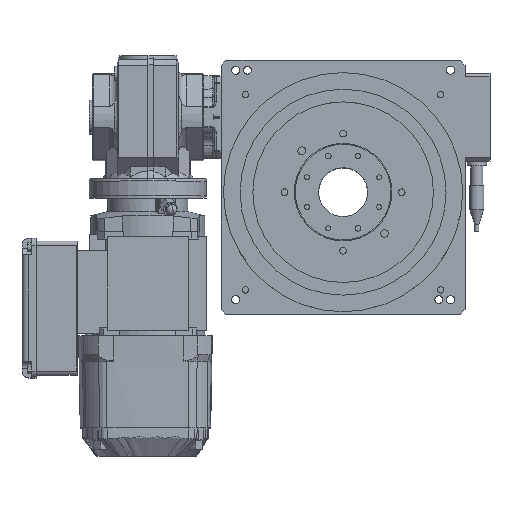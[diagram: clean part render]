
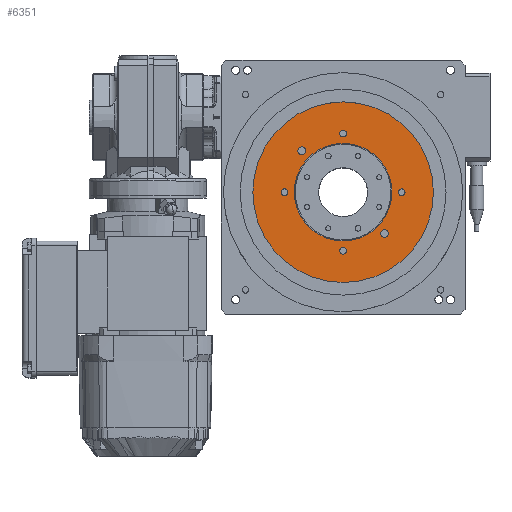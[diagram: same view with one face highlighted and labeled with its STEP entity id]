
A CAD part, top view. The second image highlights one B-rep face of the part: STEP entity #6351.
In plain terms, the highlighted planar face has unit normal (0, 0, 1).
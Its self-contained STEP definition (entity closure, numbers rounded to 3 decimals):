
#6351=ADVANCED_FACE('',(#13473,#13474,#13475,#13476,#13477,#13478,#13479,#13480),#13481,.T.);
#13473=FACE_BOUND('',#25525,.T.);
#13474=FACE_BOUND('',#25526,.T.);
#13475=FACE_BOUND('',#25527,.T.);
#13476=FACE_BOUND('',#25528,.T.);
#13477=FACE_BOUND('',#25529,.T.);
#13478=FACE_BOUND('',#25530,.T.);
#13479=FACE_OUTER_BOUND('',#25531,.T.);
#13480=FACE_BOUND('',#25532,.T.);
#13481=PLANE('',#25533);
#25525=EDGE_LOOP('',(#47269,#47270));
#25526=EDGE_LOOP('',(#47271,#47272));
#25527=EDGE_LOOP('',(#47273,#47274));
#25528=EDGE_LOOP('',(#47275,#47276));
#25529=EDGE_LOOP('',(#47277,#47278));
#25530=EDGE_LOOP('',(#47279,#47280));
#25531=EDGE_LOOP('',(#47281,#47282));
#25532=EDGE_LOOP('',(#47283,#47284));
#25533=AXIS2_PLACEMENT_3D('',#47285,#47286,#47287);
#47269=ORIENTED_EDGE('',*,*,#54572,.T.);
#47270=ORIENTED_EDGE('',*,*,#59529,.T.);
#47271=ORIENTED_EDGE('',*,*,#54577,.T.);
#47272=ORIENTED_EDGE('',*,*,#59530,.T.);
#47273=ORIENTED_EDGE('',*,*,#54582,.T.);
#47274=ORIENTED_EDGE('',*,*,#59531,.T.);
#47275=ORIENTED_EDGE('',*,*,#54587,.T.);
#47276=ORIENTED_EDGE('',*,*,#59532,.T.);
#47277=ORIENTED_EDGE('',*,*,#54592,.T.);
#47278=ORIENTED_EDGE('',*,*,#59533,.T.);
#47279=ORIENTED_EDGE('',*,*,#54597,.T.);
#47280=ORIENTED_EDGE('',*,*,#59534,.T.);
#47281=ORIENTED_EDGE('',*,*,#59527,.T.);
#47282=ORIENTED_EDGE('',*,*,#54606,.T.);
#47283=ORIENTED_EDGE('',*,*,#54763,.T.);
#47284=ORIENTED_EDGE('',*,*,#54756,.T.);
#47285=CARTESIAN_POINT('',(0.0,0.0,0.0));
#47286=DIRECTION('',(0.0,0.0,1.0));
#47287=DIRECTION('',(-1.0,0.0,0.0));
#54572=EDGE_CURVE('',#64964,#64968,#64970,.T.);
#54577=EDGE_CURVE('',#64973,#64977,#64979,.T.);
#54582=EDGE_CURVE('',#64982,#64986,#64988,.T.);
#54587=EDGE_CURVE('',#64991,#64995,#64997,.T.);
#54592=EDGE_CURVE('',#65000,#65004,#65006,.T.);
#54597=EDGE_CURVE('',#65009,#65013,#65015,.T.);
#54606=EDGE_CURVE('',#65031,#65028,#65032,.T.);
#54756=EDGE_CURVE('',#65301,#65298,#65302,.T.);
#54763=EDGE_CURVE('',#65298,#65301,#65310,.T.);
#59527=EDGE_CURVE('',#65028,#65031,#72353,.T.);
#59529=EDGE_CURVE('',#64968,#64964,#72355,.T.);
#59530=EDGE_CURVE('',#64977,#64973,#72356,.T.);
#59531=EDGE_CURVE('',#64986,#64982,#72357,.T.);
#59532=EDGE_CURVE('',#64995,#64991,#72358,.T.);
#59533=EDGE_CURVE('',#65004,#65000,#72359,.T.);
#59534=EDGE_CURVE('',#65013,#65009,#72360,.T.);
#64964=VERTEX_POINT('',#81385);
#64968=VERTEX_POINT('',#81390);
#64970=CIRCLE('',#81393,4.0);
#64973=VERTEX_POINT('',#81396);
#64977=VERTEX_POINT('',#81401);
#64979=CIRCLE('',#81404,4.0);
#64982=VERTEX_POINT('',#81407);
#64986=VERTEX_POINT('',#81412);
#64988=CIRCLE('',#81415,3.456);
#64991=VERTEX_POINT('',#81418);
#64995=VERTEX_POINT('',#81423);
#64997=CIRCLE('',#81426,3.456);
#65000=VERTEX_POINT('',#81429);
#65004=VERTEX_POINT('',#81434);
#65006=CIRCLE('',#81437,3.456);
#65009=VERTEX_POINT('',#81440);
#65013=VERTEX_POINT('',#81445);
#65015=CIRCLE('',#81448,3.456);
#65028=VERTEX_POINT('',#81463);
#65031=VERTEX_POINT('',#81467);
#65032=CIRCLE('',#81468,92.5);
#65298=VERTEX_POINT('',#81793);
#65301=VERTEX_POINT('',#81797);
#65302=CIRCLE('',#81798,50.0);
#65310=CIRCLE('',#81807,50.0);
#72353=CIRCLE('',#95324,92.5);
#72355=CIRCLE('',#95326,4.0);
#72356=CIRCLE('',#95327,4.0);
#72357=CIRCLE('',#95328,3.456);
#72358=CIRCLE('',#95329,3.456);
#72359=CIRCLE('',#95330,3.456);
#72360=CIRCLE('',#95331,3.456);
#81385=CARTESIAN_POINT('',(-38.426,42.426,0.0));
#81390=CARTESIAN_POINT('',(-46.426,42.426,0.0));
#81393=AXIS2_PLACEMENT_3D('',#103502,#103503,#103504);
#81396=CARTESIAN_POINT('',(46.426,-42.426,0.0));
#81401=CARTESIAN_POINT('',(38.426,-42.426,0.0));
#81404=AXIS2_PLACEMENT_3D('',#103510,#103511,#103512);
#81407=CARTESIAN_POINT('',(3.456,-60.0,0.0));
#81412=CARTESIAN_POINT('',(-3.456,-60.0,0.0));
#81415=AXIS2_PLACEMENT_3D('',#103518,#103519,#103520);
#81418=CARTESIAN_POINT('',(-56.544,0.0,0.0));
#81423=CARTESIAN_POINT('',(-63.456,0.,0.0));
#81426=AXIS2_PLACEMENT_3D('',#103526,#103527,#103528);
#81429=CARTESIAN_POINT('',(3.456,60.0,0.0));
#81434=CARTESIAN_POINT('',(-3.456,60.0,0.0));
#81437=AXIS2_PLACEMENT_3D('',#103534,#103535,#103536);
#81440=CARTESIAN_POINT('',(63.456,0.0,0.0));
#81445=CARTESIAN_POINT('',(56.544,0.,0.0));
#81448=AXIS2_PLACEMENT_3D('',#103542,#103543,#103544);
#81463=CARTESIAN_POINT('',(92.5,0.0,0.0));
#81467=CARTESIAN_POINT('',(-92.5,0.,0.0));
#81468=AXIS2_PLACEMENT_3D('',#103557,#103558,#103559);
#81793=CARTESIAN_POINT('',(50.0,0.0,0.0));
#81797=CARTESIAN_POINT('',(-50.0,0.,0.0));
#81798=AXIS2_PLACEMENT_3D('',#103797,#103798,#103799);
#81807=AXIS2_PLACEMENT_3D('',#103810,#103811,#103812);
#95324=AXIS2_PLACEMENT_3D('',#106729,#106730,#106731);
#95326=AXIS2_PLACEMENT_3D('',#106732,#106733,#106734);
#95327=AXIS2_PLACEMENT_3D('',#106735,#106736,#106737);
#95328=AXIS2_PLACEMENT_3D('',#106738,#106739,#106740);
#95329=AXIS2_PLACEMENT_3D('',#106741,#106742,#106743);
#95330=AXIS2_PLACEMENT_3D('',#106744,#106745,#106746);
#95331=AXIS2_PLACEMENT_3D('',#106747,#106748,#106749);
#103502=CARTESIAN_POINT('',(-42.426,42.426,0.0));
#103503=DIRECTION('',(0.0,0.0,-1.0));
#103504=DIRECTION('',(1.0,0.0,0.0));
#103510=CARTESIAN_POINT('',(42.426,-42.426,0.0));
#103511=DIRECTION('',(0.0,0.0,-1.0));
#103512=DIRECTION('',(1.0,0.0,0.0));
#103518=CARTESIAN_POINT('',(0.0,-60.0,0.0));
#103519=DIRECTION('',(0.0,0.0,-1.0));
#103520=DIRECTION('',(1.0,0.0,0.0));
#103526=CARTESIAN_POINT('',(-60.0,0.0,0.0));
#103527=DIRECTION('',(0.0,0.0,-1.0));
#103528=DIRECTION('',(1.0,0.0,0.0));
#103534=CARTESIAN_POINT('',(0.0,60.0,0.0));
#103535=DIRECTION('',(0.0,0.0,-1.0));
#103536=DIRECTION('',(1.0,0.0,0.0));
#103542=CARTESIAN_POINT('',(60.0,0.0,0.0));
#103543=DIRECTION('',(0.0,0.0,-1.0));
#103544=DIRECTION('',(1.0,0.0,0.0));
#103557=CARTESIAN_POINT('',(0.0,0.0,0.0));
#103558=DIRECTION('',(0.0,0.0,1.0));
#103559=DIRECTION('',(1.0,0.0,0.0));
#103797=CARTESIAN_POINT('',(0.0,0.0,0.0));
#103798=DIRECTION('',(0.0,0.0,-1.0));
#103799=DIRECTION('',(1.0,0.0,0.0));
#103810=CARTESIAN_POINT('',(0.0,0.0,0.0));
#103811=DIRECTION('',(0.0,0.0,-1.0));
#103812=DIRECTION('',(1.0,0.0,0.0));
#106729=CARTESIAN_POINT('',(0.0,0.0,0.0));
#106730=DIRECTION('',(0.0,0.0,1.0));
#106731=DIRECTION('',(1.0,0.0,0.0));
#106732=CARTESIAN_POINT('',(-42.426,42.426,0.0));
#106733=DIRECTION('',(0.0,0.0,-1.0));
#106734=DIRECTION('',(1.0,0.0,0.0));
#106735=CARTESIAN_POINT('',(42.426,-42.426,0.0));
#106736=DIRECTION('',(0.0,0.0,-1.0));
#106737=DIRECTION('',(1.0,0.0,0.0));
#106738=CARTESIAN_POINT('',(0.0,-60.0,0.0));
#106739=DIRECTION('',(0.0,0.0,-1.0));
#106740=DIRECTION('',(1.0,0.0,0.0));
#106741=CARTESIAN_POINT('',(-60.0,0.0,0.0));
#106742=DIRECTION('',(0.0,0.0,-1.0));
#106743=DIRECTION('',(1.0,0.0,0.0));
#106744=CARTESIAN_POINT('',(0.0,60.0,0.0));
#106745=DIRECTION('',(0.0,0.0,-1.0));
#106746=DIRECTION('',(1.0,0.0,0.0));
#106747=CARTESIAN_POINT('',(60.0,0.0,0.0));
#106748=DIRECTION('',(0.0,0.0,-1.0));
#106749=DIRECTION('',(1.0,0.0,0.0));
